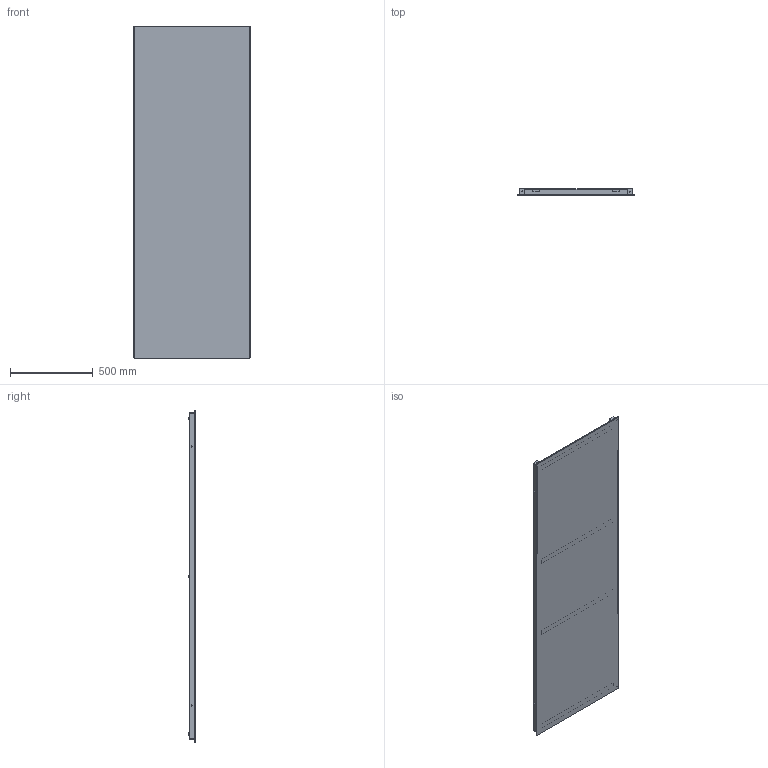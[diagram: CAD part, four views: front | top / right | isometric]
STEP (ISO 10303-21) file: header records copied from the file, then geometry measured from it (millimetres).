
FILE_DESCRIPTION(/* description */ (''),/* implementation_level */ '2;1');
FILE_NAME(/* name */ 'MGR70',/* time_stamp */ '2026-06-09T16:55:43+02:00',/* author */ (''),/* organization */ (''),/* preprocessor_version */ 'ST-DEVELOPER v16.5',/* originating_system */ '',/* authorisation */ '');
FILE_SCHEMA (('AUTOMOTIVE_DESIGN'));
Length unit declared in the file: millimetre
Products named in the file (1): Document
Bounding box: 700 x 44 x 2000 mm (x, y, z)
Volume: 8296700.8 mm3; surface area: 4588646.7 mm2
Topology: 19 solids, 19 shells, 278 faces, 785 edges, 528 vertices
Faces by surface type: bspline 178, plane 100
Entity records: 11513 total; most frequent: CARTESIAN_POINT 6800, ORIENTED_EDGE 1536, EDGE_CURVE 768, VERTEX_POINT 528, B_SPLINE_CURVE_WITH_KNOTS 426, EDGE_LOOP 342, ADVANCED_FACE 278, FACE_OUTER_BOUND 278
